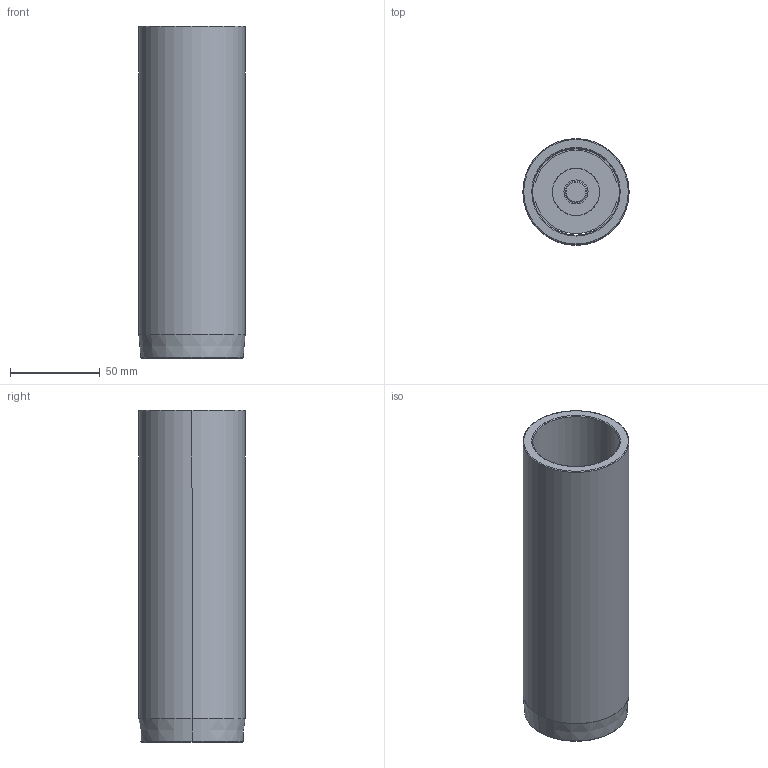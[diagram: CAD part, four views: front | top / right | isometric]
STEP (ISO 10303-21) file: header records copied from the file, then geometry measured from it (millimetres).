
FILE_DESCRIPTION((''),'2;1');
FILE_NAME('C12_048_185.stp','2009-01-28T14:15:27',(''),(''),'Mechanical Desktop 2009','Mechanical Desktop 2009',', , ');
FILE_SCHEMA(('CONFIG_CONTROL_DESIGN'));
Length unit declared in the file: millimetre
Products named in the file (2): Product; blmdl1
Assembly tree (1 placements, depth 2):
  Product
    blmdl1
Bounding box: 59.25 x 59.25 x 185 mm (x, y, z)
Volume: 173947.8 mm3; surface area: 73756.9 mm2
Topology: 5 solids, 5 shells, 79 faces, 200 edges, 134 vertices
Faces by surface type: cylinder 34, plane 29, torus 10, cone 6
Entity records: 2585 total; most frequent: DIRECTION 480, CARTESIAN_POINT 435, ORIENTED_EDGE 400, AXIS2_PLACEMENT_3D 203, EDGE_CURVE 200, VERTEX_POINT 134, CIRCLE 122, EDGE_LOOP 92
